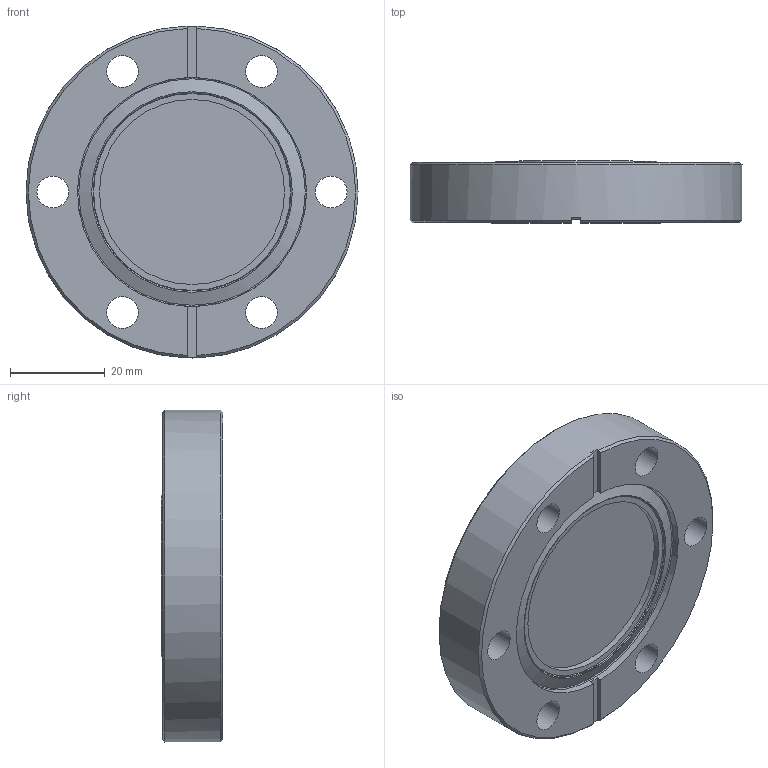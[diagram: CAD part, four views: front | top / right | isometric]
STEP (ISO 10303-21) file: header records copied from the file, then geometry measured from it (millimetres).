
FILE_DESCRIPTION(/* description */ (''),/* implementation_level */ '2;1');
FILE_NAME(/* name */ '',/* time_stamp */ '2024-03-04T17:01:55+09:00',/* author */ (''),/* organization */ (''),/* preprocessor_version */ 'ST-DEVELOPER v20',/* originating_system */ 'Autodesk Translation Framework v12.20.1.177',/* authorisation */ '');
FILE_SCHEMA (('AUTOMOTIVE_DESIGN { 1 0 10303 214 3 1 1 }'));
Length unit declared in the file: millimetre
Products named in the file (2): 2107-4077-D ICF70(t12.7)ブランク(BeCu)溝付; ICF34(t11.5)ブランクタップ(M4深さ6
)(JIS) v1
Assembly tree (1 placements, depth 2):
  2107-4077-D ICF70(t12.7)ブランク(BeCu)溝付
    ICF34(t11.5)ブランクタップ(M4深さ6
)(JIS) v1
Bounding box: 70 x 13 x 70 mm (x, y, z)
Volume: 42593.5 mm3; surface area: 12087.2 mm2
Topology: 1 solids, 1 shells, 30 faces, 77 edges, 51 vertices
Faces by surface type: plane 12, cylinder 11, cone 4, torus 3
Full cylindrical faces by diameter (mm): 6.7 x6, 34 x1, 39 x1, 41.9 x1, 48.3 x1, 70 x1
Entity records: 1030 total; most frequent: DIRECTION 187, CARTESIAN_POINT 161, ORIENTED_EDGE 154, EDGE_CURVE 77, AXIS2_PLACEMENT_3D 77, VERTEX_POINT 51, EDGE_LOOP 44, CIRCLE 44
